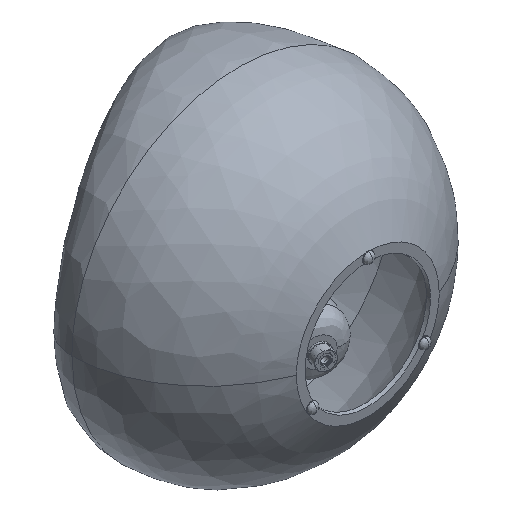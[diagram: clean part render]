
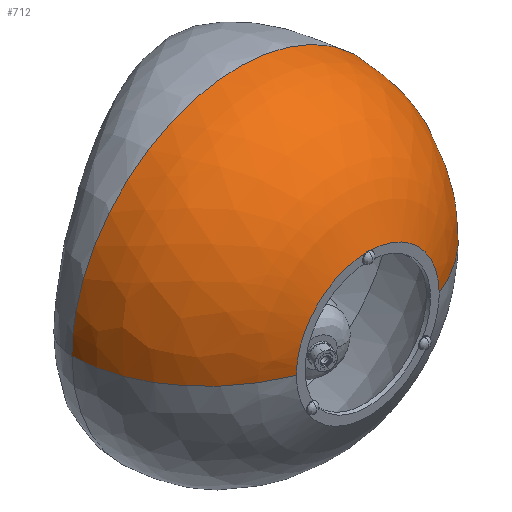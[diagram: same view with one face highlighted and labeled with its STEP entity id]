
A CAD part, isometric view. The second image highlights one B-rep face of the part: STEP entity #712.
In plain terms, the highlighted free-form (B-spline) face has degree [2, 2] with [3, 5] control points.
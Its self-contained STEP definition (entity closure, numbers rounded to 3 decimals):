
#712=ADVANCED_FACE('',(#951),#4593,.T.);
#951=FACE_OUTER_BOUND('',#1218,.T.);
#1218=EDGE_LOOP('',(#2546,#2547,#2548,#2549));
#2546=ORIENTED_EDGE('',*,*,#3217,.F.);
#2547=ORIENTED_EDGE('',*,*,#3229,.F.);
#2548=ORIENTED_EDGE('',*,*,#3215,.F.);
#2549=ORIENTED_EDGE('',*,*,#3230,.T.);
#3215=EDGE_CURVE('',#4360,#4319,#3894,.T.);
#3217=EDGE_CURVE('',#4320,#4361,#3896,.T.);
#3229=EDGE_CURVE('',#4319,#4320,#3902,.T.);
#3230=EDGE_CURVE('',#4360,#4361,#3903,.T.);
#3894=(
BOUNDED_CURVE()
B_SPLINE_CURVE(2,(#20697,#20698,#20699,#20700,#20701),.UNSPECIFIED.,.F.,
 .F.)
B_SPLINE_CURVE_WITH_KNOTS((3,2,3),(0.,0.,178.982),
 .UNSPECIFIED.)
CURVE()
GEOMETRIC_REPRESENTATION_ITEM()
RATIONAL_B_SPLINE_CURVE((1.,1.,1.,0.844,1.))
REPRESENTATION_ITEM('')
);
#3896=(
BOUNDED_CURVE()
B_SPLINE_CURVE(2,(#20707,#20708,#20709,#20710,#20711),.UNSPECIFIED.,.F.,
 .F.)
B_SPLINE_CURVE_WITH_KNOTS((3,2,3),(-178.982,0.,
0.),.UNSPECIFIED.)
CURVE()
GEOMETRIC_REPRESENTATION_ITEM()
RATIONAL_B_SPLINE_CURVE((1.,0.844,1.,1.,1.))
REPRESENTATION_ITEM('')
);
#3902=(
BOUNDED_CURVE()
B_SPLINE_CURVE(2,(#20763,#20764,#20765,#20766,#20767),.UNSPECIFIED.,.F.,
 .F.)
B_SPLINE_CURVE_WITH_KNOTS((3,2,3),(-1099.557,-824.668,
-549.779),.UNSPECIFIED.)
CURVE()
GEOMETRIC_REPRESENTATION_ITEM()
RATIONAL_B_SPLINE_CURVE((1.,0.707,1.,0.707,1.))
REPRESENTATION_ITEM('')
);
#3903=(
BOUNDED_CURVE()
B_SPLINE_CURVE(2,(#20768,#20769,#20770,#20771,#20772),.UNSPECIFIED.,.F.,
 .F.)
B_SPLINE_CURVE_WITH_KNOTS((3,2,3),(-1099.557,-824.668,
-549.779),.UNSPECIFIED.)
CURVE()
GEOMETRIC_REPRESENTATION_ITEM()
RATIONAL_B_SPLINE_CURVE((1.,0.707,1.,0.707,1.))
REPRESENTATION_ITEM('')
);
#4319=VERTEX_POINT('',#19147);
#4320=VERTEX_POINT('',#19148);
#4360=VERTEX_POINT('',#19188);
#4361=VERTEX_POINT('',#19189);
#4593=(
BOUNDED_SURFACE()
B_SPLINE_SURFACE(2,2,((#18760,#18761,#18762,#18763,#18764),(#18765,#18766,
#18767,#18768,#18769),(#18770,#18771,#18772,#18773,#18774)),
 .UNSPECIFIED.,.F.,.F.,.F.)
B_SPLINE_SURFACE_WITH_KNOTS((3,3),(3,2,3),(0.,178.982),(549.779,
824.668,1099.557),.UNSPECIFIED.)
GEOMETRIC_REPRESENTATION_ITEM()
RATIONAL_B_SPLINE_SURFACE(((1.,0.707,1.,0.707,1.),
(0.792,0.56,0.792,0.56,
0.792),(0.88,0.622,0.88,
0.622,0.88)))
REPRESENTATION_ITEM('')
SURFACE()
);
#18760=CARTESIAN_POINT('',(-175.,94.748,0.));
#18761=CARTESIAN_POINT('',(-175.,94.748,175.));
#18762=CARTESIAN_POINT('',(0.,94.748,175.));
#18763=CARTESIAN_POINT('',(175.,94.748,175.));
#18764=CARTESIAN_POINT('',(175.,94.748,0.));
#18765=CARTESIAN_POINT('',(-175.,-0.485,0.));
#18766=CARTESIAN_POINT('',(-175.,-0.485,175.));
#18767=CARTESIAN_POINT('',(0.,-0.485,175.));
#18768=CARTESIAN_POINT('',(175.,-0.485,175.));
#18769=CARTESIAN_POINT('',(175.,-0.485,0.));
#18770=CARTESIAN_POINT('',(-75.,-41.,0.));
#18771=CARTESIAN_POINT('',(-75.,-41.,75.));
#18772=CARTESIAN_POINT('',(0.,-41.,75.));
#18773=CARTESIAN_POINT('',(75.,-41.,75.));
#18774=CARTESIAN_POINT('',(75.,-41.,0.));
#19147=CARTESIAN_POINT('',(75.,-41.,0.));
#19148=CARTESIAN_POINT('',(-75.,-41.,0.));
#19188=CARTESIAN_POINT('',(175.,94.748,0.));
#19189=CARTESIAN_POINT('',(-175.,94.748,0.));
#20697=CARTESIAN_POINT('',(175.,94.748,0.));
#20698=CARTESIAN_POINT('',(175.,94.748,0.));
#20699=CARTESIAN_POINT('',(175.,94.748,0.));
#20700=CARTESIAN_POINT('',(175.,-0.485,0.));
#20701=CARTESIAN_POINT('',(75.,-41.,0.));
#20707=CARTESIAN_POINT('',(-75.,-41.,0.));
#20708=CARTESIAN_POINT('',(-175.,-0.485,0.));
#20709=CARTESIAN_POINT('',(-175.,94.748,0.));
#20710=CARTESIAN_POINT('',(-175.,94.748,0.));
#20711=CARTESIAN_POINT('',(-175.,94.748,0.));
#20763=CARTESIAN_POINT('',(75.,-41.,0.));
#20764=CARTESIAN_POINT('',(75.,-41.,75.));
#20765=CARTESIAN_POINT('',(0.,-41.,75.));
#20766=CARTESIAN_POINT('',(-75.,-41.,75.));
#20767=CARTESIAN_POINT('',(-75.,-41.,0.));
#20768=CARTESIAN_POINT('',(175.,94.748,0.));
#20769=CARTESIAN_POINT('',(175.,94.748,175.));
#20770=CARTESIAN_POINT('',(0.,94.748,175.));
#20771=CARTESIAN_POINT('',(-175.,94.748,175.));
#20772=CARTESIAN_POINT('',(-175.,94.748,0.));
